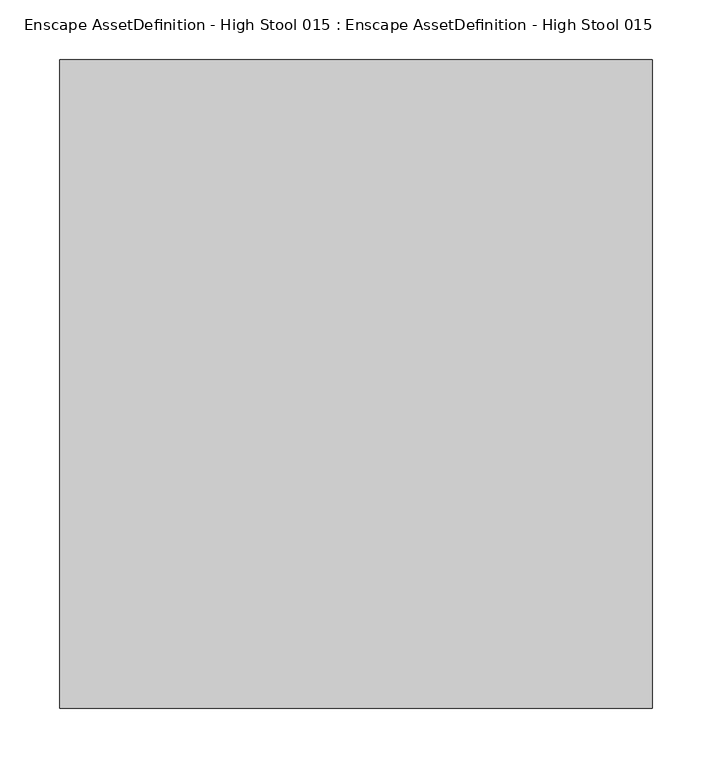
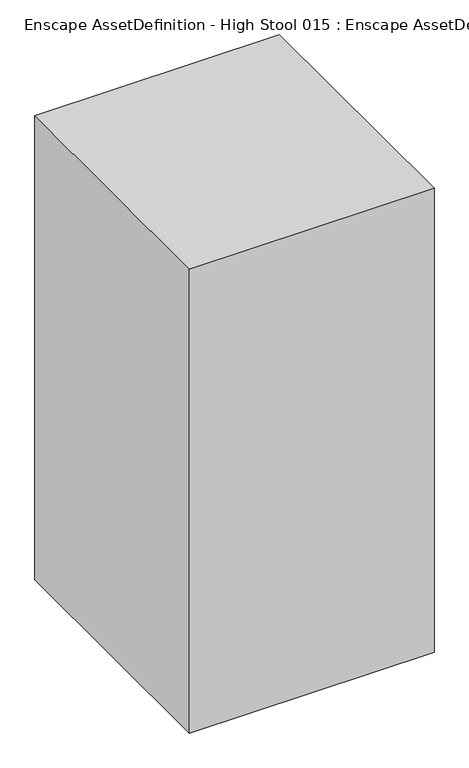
"""IFC4 building model written with IfcOpenShell, lengths in millimetres: geographic element geometry, Enscape AssetDefinition - High Stool 015 : Enscape AssetDefinition - High Stool 015."""

from ifc_helpers import new_model, si_unit, origin, place, context, project, spatial, triangles, source, transform, mapped, element, save


def enscape_assetdefinition_high_stool_015_enscape_db5fdf95(model_context):
    return source(origin(), model_context, "Body", "Tessellation", [
        triangles([(-248.6419998, -253.0379887, 996.7120543), (248.6410006, -253.0379887, 996.7120543), (248.6410006, 291.3950043, 996.7120543), (-248.6419998, 291.3950043, 996.7120543), (-248.6419998, -253.0379887, 0.032), (248.6410006, -253.0379887, 0.032), (248.6410006, 291.3950043, 0.032), (-248.6419998, 291.3950043, 0.032)], [[6, 8, 7], [5, 8, 6], [3, 7, 8], [4, 3, 8], [2, 6, 7], [3, 2, 7], [1, 5, 6], [2, 1, 6], [4, 8, 5], [1, 4, 5], [2, 3, 4], [1, 2, 4]]),
    ])


if __name__ == "__main__":
    model = new_model("IFC4")
    model_context = context("Model", 3, world=origin())
    ifc_project = project(units=[si_unit("LENGTHUNIT", "METRE", prefix="MILLI")], contexts=[model_context])
    site = spatial("IfcSite", under=ifc_project)
    building = spatial("IfcBuilding", under=site)
    placement = place(None, origin())
    enscape_assetdefinition_high_stool_015_enscape_shape = enscape_assetdefinition_high_stool_015_enscape_db5fdf95(model_context)
    element("IfcGeographicElement", 1, ObjectType="Enscape AssetDefinition - High Stool 015 : Enscape AssetDefinition - High Stool 015", at=placement, inside=building, context=model_context, shape_type="MappedRepresentation", body=[
        mapped(enscape_assetdefinition_high_stool_015_enscape_shape, transform((0.0, 0.0, 0.0), x_axis=(1.0, 0.0, 0.0), y_axis=(0.0, 1.0, 0.0), z_axis=(0.0, 0.0, 1.0))),
    ])
    save(model, "model.ifc")
